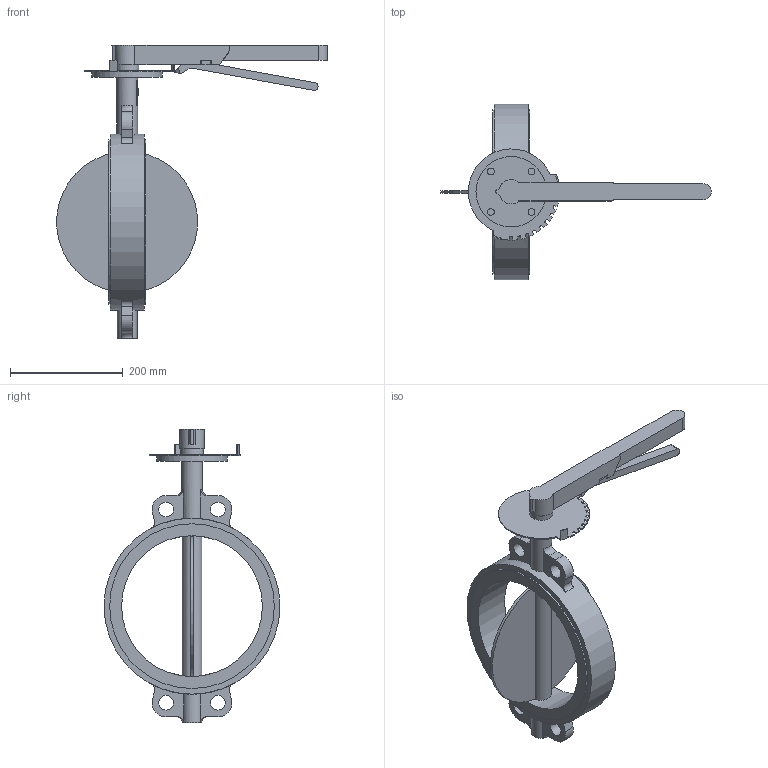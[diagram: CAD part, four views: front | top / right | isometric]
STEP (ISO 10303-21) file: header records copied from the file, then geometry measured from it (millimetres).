
FILE_DESCRIPTION(('STEP AP203'), '1');
FILE_NAME('Çàòâîð 017W.Y_DN250_PN16_ðóêîÿòü', '', ('UNSPECIFIED'), ('UNSPECIFIED'), 'ASCON STEP Converter 1.6', 'ASCON Math Kernel', '');
FILE_SCHEMA(('CONFIG_CONTROL_DESIGN'));
Length unit declared in the file: millimetre
Bounding box: 479.77 x 312.4 x 521 mm (x, y, z)
Volume: 3107470.8 mm3; surface area: 424704.5 mm2
Topology: 1 solids, 1 shells, 196 faces, 529 edges, 350 vertices
Faces by surface type: plane 110, cylinder 82, torus 4
Full cylindrical faces by diameter (mm): 12 x4, 26 x4, 35 x2, 37 x1, 41 x1, 125 x1, 250 x1, 292.4 x2, 312.4 x1
Entity records: 8673 total; most frequent: CARTESIAN_POINT 2029, DIRECTION 1072, ORIENTED_EDGE 1024, EDGE_CURVE 512, AXIS2_PLACEMENT_3D 383, VERTEX_POINT 350, LINE 306, VECTOR 306
